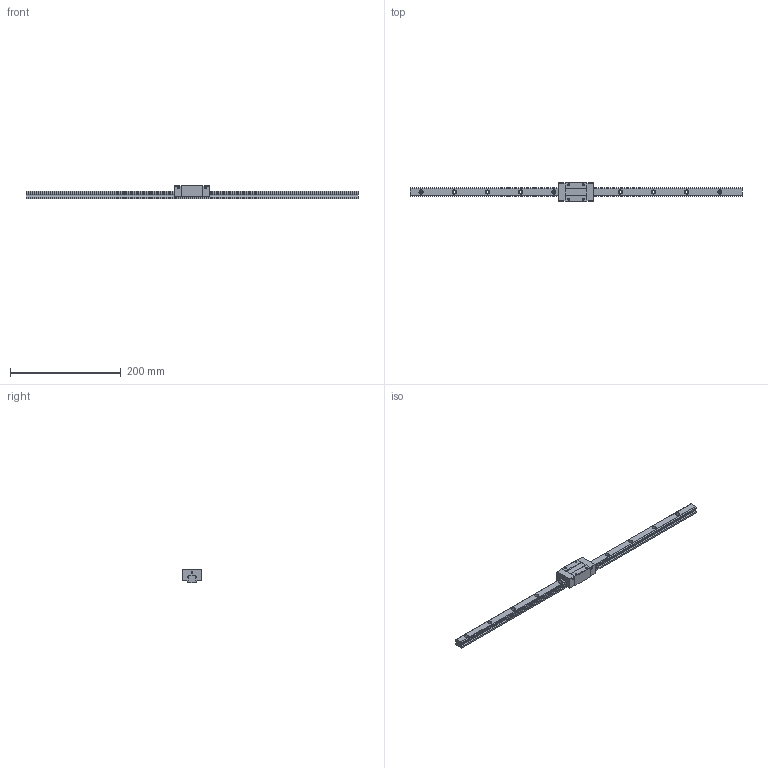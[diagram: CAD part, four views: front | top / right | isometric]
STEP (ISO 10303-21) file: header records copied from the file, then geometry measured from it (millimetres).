
FILE_DESCRIPTION (( 'STEP AP203' ), '1' );
FILE_NAME ('TRS15VN-ZN.STEP', '2024-06-12T08:52:05', ( '' ), ( '' ), 'SwSTEP 2.0', 'SolidWorks 2022', '' );
FILE_SCHEMA (( 'CONFIG_CONTROL_DESIGN' ));
Length unit declared in the file: millimetre
Products named in the file (1): TRS15VN-ZN
Bounding box: 600 x 34 x 24 mm (x, y, z)
Volume: 136657.8 mm3; surface area: 47053 mm2
Topology: 2 solids, 2 shells, 204 faces, 528 edges, 340 vertices
Faces by surface type: cylinder 96, plane 92, cone 16
Entity records: 6319 total; most frequent: DIRECTION 1130, CARTESIAN_POINT 1065, ORIENTED_EDGE 1040, EDGE_CURVE 520, AXIS2_PLACEMENT_3D 405, VERTEX_POINT 340, VECTOR 320, LINE 320
